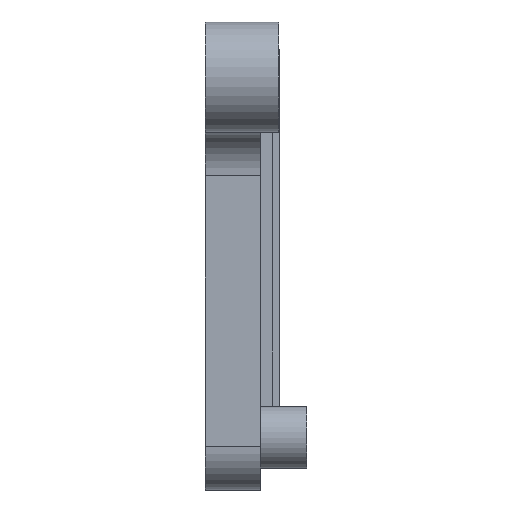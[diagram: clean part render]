
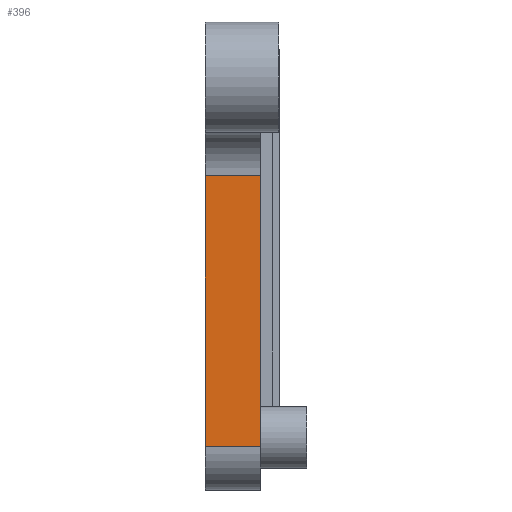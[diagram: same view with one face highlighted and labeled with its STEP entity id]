
A CAD part, left-side view. The second image highlights one B-rep face of the part: STEP entity #396.
In plain terms, the highlighted planar face has unit normal (-1, 0, 0).
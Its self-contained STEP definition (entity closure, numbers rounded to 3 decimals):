
#65 = DIRECTION ( 'NONE',  ( 0., 0., 1. ) ) ;
#109 = VECTOR ( 'NONE', #65, 1000. ) ;
#117 = EDGE_CURVE ( 'NONE', #228, #1450, #729, .T. ) ;
#147 = EDGE_LOOP ( 'NONE', ( #551, #530, #1001, #685 ) ) ;
#166 = AXIS2_PLACEMENT_3D ( 'NONE', #873, #1221, #416 ) ;
#203 = CARTESIAN_POINT ( 'NONE',  ( 0., 4., -30.825 ) ) ;
#228 = VERTEX_POINT ( 'NONE', #203 ) ;
#345 = VECTOR ( 'NONE', #554, 1000. ) ;
#383 = VERTEX_POINT ( 'NONE', #523 ) ;
#396 = ADVANCED_FACE ( 'NONE', ( #1257 ), #753, .F. ) ;
#416 = DIRECTION ( 'NONE',  ( 0., 0., -1. ) ) ;
#417 = LINE ( 'NONE', #609, #109 ) ;
#418 = CARTESIAN_POINT ( 'NONE',  ( 0., 0., -11.175 ) ) ;
#449 = CARTESIAN_POINT ( 'NONE',  ( 0., 0., 0. ) ) ;
#468 = LINE ( 'NONE', #449, #345 ) ;
#469 = VECTOR ( 'NONE', #1159, 1000. ) ;
#523 = CARTESIAN_POINT ( 'NONE',  ( 0., 4., -11.175 ) ) ;
#530 = ORIENTED_EDGE ( 'NONE', *, *, #117, .T. ) ;
#551 = ORIENTED_EDGE ( 'NONE', *, *, #1302, .F. ) ;
#554 = DIRECTION ( 'NONE',  ( 0., 0., 1. ) ) ;
#580 = CARTESIAN_POINT ( 'NONE',  ( 0., 4., -11.175 ) ) ;
#582 = EDGE_CURVE ( 'NONE', #1300, #383, #1155, .T. ) ;
#609 = CARTESIAN_POINT ( 'NONE',  ( 0., 4., 0. ) ) ;
#685 = ORIENTED_EDGE ( 'NONE', *, *, #582, .T. ) ;
#729 = LINE ( 'NONE', #920, #469 ) ;
#753 = PLANE ( 'NONE',  #166 ) ;
#873 = CARTESIAN_POINT ( 'NONE',  ( 0., 4., 0. ) ) ;
#920 = CARTESIAN_POINT ( 'NONE',  ( 0., 4., -30.825 ) ) ;
#925 = EDGE_CURVE ( 'NONE', #1450, #1300, #468, .T. ) ;
#1001 = ORIENTED_EDGE ( 'NONE', *, *, #925, .T. ) ;
#1118 = VECTOR ( 'NONE', #1494, 1000. ) ;
#1155 = LINE ( 'NONE', #580, #1118 ) ;
#1159 = DIRECTION ( 'NONE',  ( 0., -1., 0. ) ) ;
#1221 = DIRECTION ( 'NONE',  ( 1., 0., 0. ) ) ;
#1257 = FACE_OUTER_BOUND ( 'NONE', #147, .T. ) ;
#1300 = VERTEX_POINT ( 'NONE', #418 ) ;
#1302 = EDGE_CURVE ( 'NONE', #228, #383, #417, .T. ) ;
#1368 = CARTESIAN_POINT ( 'NONE',  ( 0., 0., -30.825 ) ) ;
#1450 = VERTEX_POINT ( 'NONE', #1368 ) ;
#1494 = DIRECTION ( 'NONE',  ( 0., 1., 0. ) ) ;
